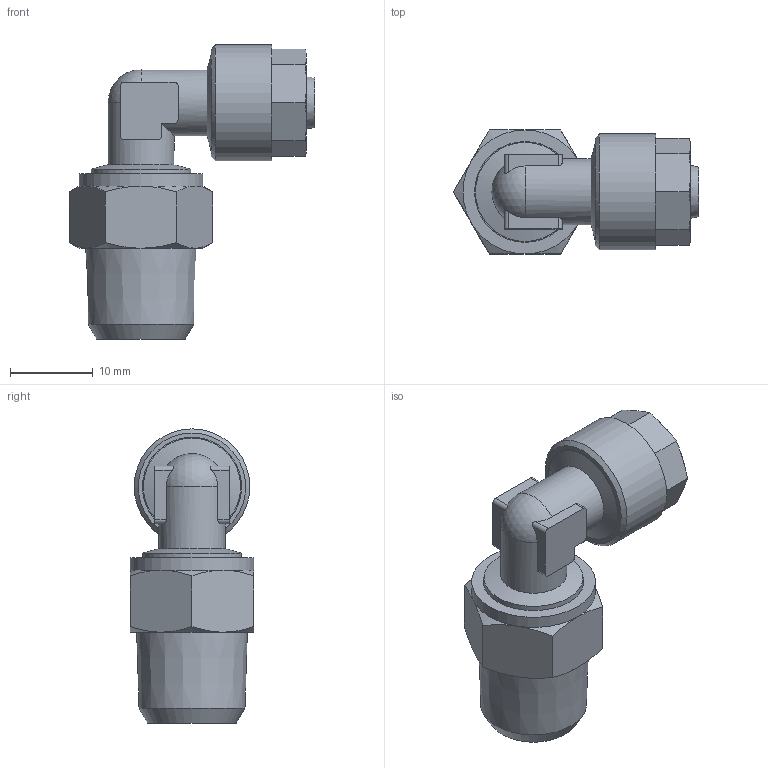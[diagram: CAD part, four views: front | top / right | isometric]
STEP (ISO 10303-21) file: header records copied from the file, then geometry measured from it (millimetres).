
FILE_DESCRIPTION(/* description */ (''),/* implementation_level */ '2;1');
FILE_NAME(/* name */ '11104_305DK_86_R14_19.07.17',/* time_stamp */ '2017-07-19T11:18:08+02:00',/* author */ (''),/* organization */ (''),/* preprocessor_version */ 'ST-DEVELOPER v16.5',/* originating_system */ 'HiCAD 2016 2102.2 Build 618',/* authorisation */ '');
FILE_SCHEMA (('AUTOMOTIVE_DESIGN { 1 0 10303 214 1 1 1 1 }'));
Length unit declared in the file: millimetre
Products named in the file (4): Root; 17006; 11104_Gewinde; 11104_Anschluss
Assembly tree (3 placements, depth 2):
  Root
    17006
    11104_Gewinde
    11104_Anschluss
Bounding box: 29.66 x 15 x 35.6 mm (x, y, z)
Volume: 4106.8 mm3; surface area: 4700.3 mm2
Topology: 3 solids, 3 shells, 100 faces, 246 edges, 157 vertices
Faces by surface type: plane 39, cone 35, cylinder 24, torus 1, sphere 1
Full cylindrical faces by diameter (mm): 5 x1, 5.5 x1, 6.8 x1, 8 x5, 10.773 x1, 12 x2, 12.2 x1, 14 x1, 15 x1
Entity records: 7517 total; most frequent: CARTESIAN_POINT 3243, DIRECTION 512, PRESENTATION_STYLE_ASSIGNMENT 403, COLOUR_RGB 401, DRAUGHTING_PRE_DEFINED_CURVE_FONT 400, CURVE_STYLE 400, OVER_RIDING_STYLED_ITEM 400, ORIENTED_EDGE 400
